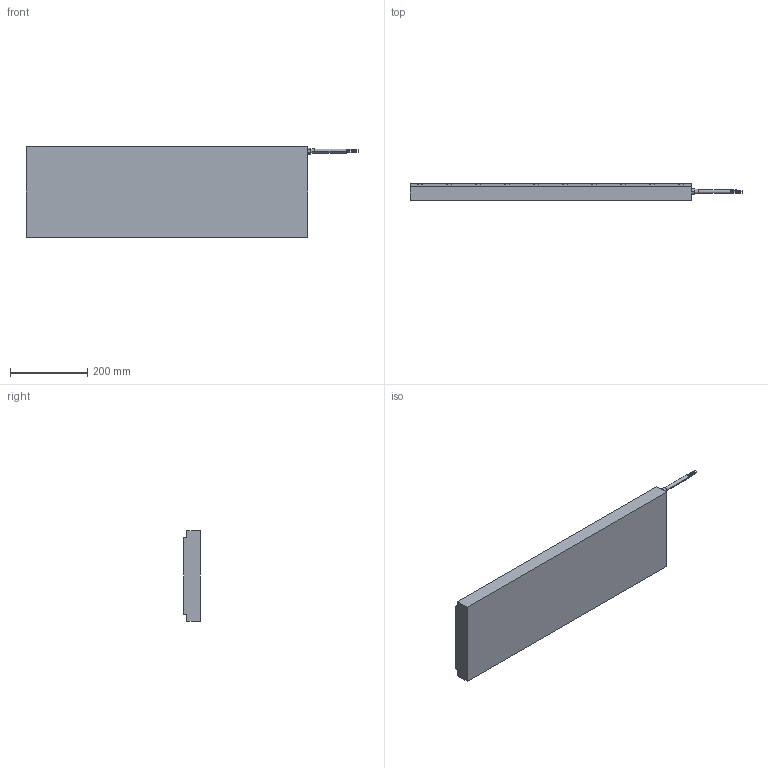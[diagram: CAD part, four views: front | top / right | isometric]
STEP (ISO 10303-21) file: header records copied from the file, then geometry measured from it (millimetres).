
FILE_DESCRIPTION((''),'2;1');
FILE_NAME('IC44-200','2015-06-24T',('brad.winesett'),('Kollmorgen'),'PRO/ENGINEER BY PARAMETRIC TECHNOLOGY CORPORATION, 2013230','PRO/ENGINEER BY PARAMETRIC TECHNOLOGY CORPORATION, 2013230','');
FILE_SCHEMA(('CONFIG_CONTROL_DESIGN'));
Length unit declared in the file: millimetre
Products named in the file (1): IC44-200
Bounding box: 858.2 x 43.3 x 235 mm (x, y, z)
Volume: 7188574.3 mm3; surface area: 526567.3 mm2
Topology: 1 solids, 61 shells, 688 faces, 1746 edges, 1104 vertices
Faces by surface type: cylinder 288, plane 280, cone 120
Entity records: 19993 total; most frequent: DIRECTION 3700, CARTESIAN_POINT 3419, ORIENTED_EDGE 3012, EDGE_CURVE 1626, AXIS2_PLACEMENT_3D 1385, VERTEX_POINT 1104, VECTOR 930, LINE 930
